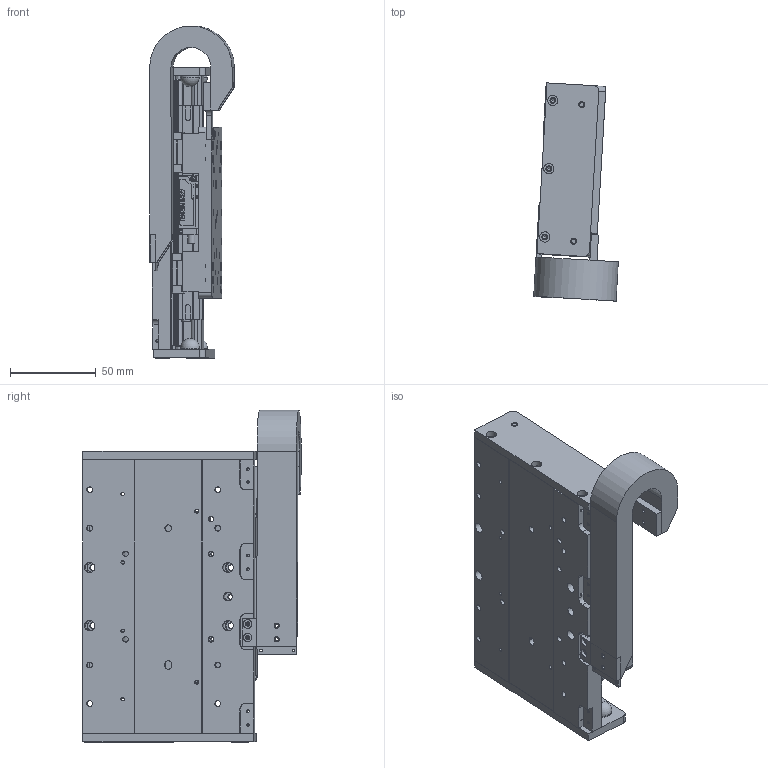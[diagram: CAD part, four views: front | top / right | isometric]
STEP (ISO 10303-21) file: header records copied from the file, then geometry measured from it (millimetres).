
FILE_DESCRIPTION(/* description */ (''),/* implementation_level */ '2;1');
FILE_NAME(/* name */ 'I:\FY15 Projects\MSR\MSR100\Web Step Models\mSR100L-050XLSXXXXXXCM13.stp',/* time_stamp */ '2015-02-18T13:12:49-05:00',/* author */ ('BF20108'),/* organization */ (''),/* preprocessor_version */ 'ST-DEVELOPER v15.2',/* originating_system */ 'Autodesk Inventor 2014',/* authorisation */ '');
FILE_SCHEMA (('AUTOMOTIVE_DESIGN { 1 0 10303 214 3 1 1 }'));
Products named in the file (17): 102-5710-02; 003-3562-34; 102-5702-01; ml18-80m-n; 102-5703-01; 102-5705-01; 002-3740-02; 102-5701; 003-3561; ML18-3E; 003-5000; 002-3740-short-carriage-assy; mx100-mcb; mx100-scb; e045-16-018-carrier-01; 002-3740-cbl-carr-sc-01; 002-3740
Bounding box: 49.52 x 127.62 x 194.12 mm (x, y, z)
Volume: 376520.6 mm3; surface area: 182639.7 mm2
Topology: 23 solids, 24 shells, 1923 faces, 5225 edges, 3398 vertices
Faces by surface type: plane 1103, cylinder 625, cone 119, torus 64, bspline 8, sphere 4
Full cylindrical faces by diameter (mm): 0.5 x8, 1 x4, 1.567 x51, 1.588 x2, 2.007 x12, 2.013 x8, 2.135 x4, 2.4 x22, 2.459 x20, 2.5 x20, 2.642 x4, 2.75 x1, 3 x18, 3.242 x15, 3.4 x20, 3.505 x4, 4 x4, 4.17 x2, 4.2 x23, 4.5 x18, 5 x8, 5.08 x2, 6 x24, 11.176 x4
Entity records: 44234 total; most frequent: CARTESIAN_POINT 8312, DIRECTION 7311, ORIENTED_EDGE 6970, EDGE_CURVE 3475, AXIS2_PLACEMENT_3D 2462, VERTEX_POINT 2436, LINE 2387, VECTOR 2387
